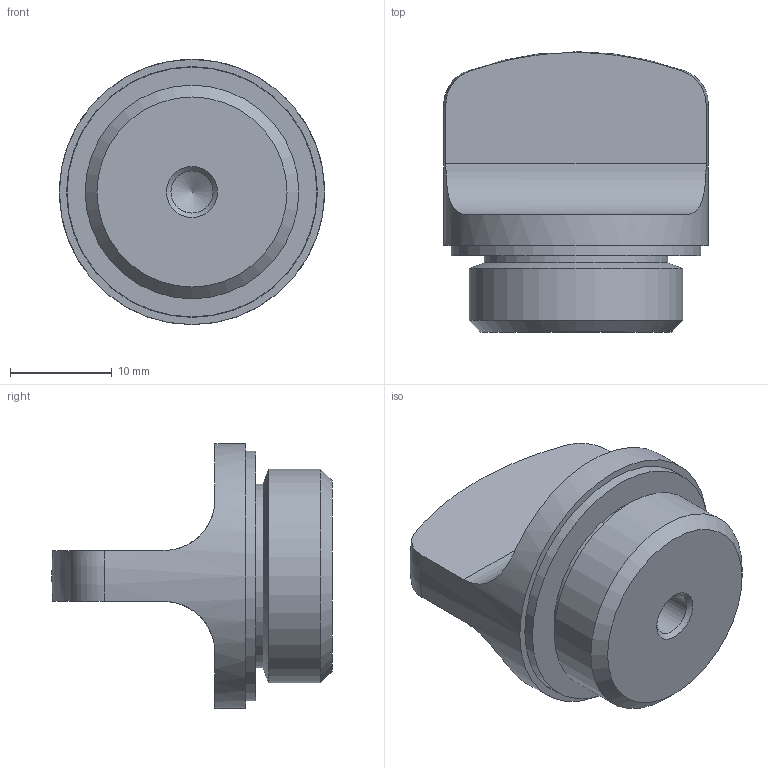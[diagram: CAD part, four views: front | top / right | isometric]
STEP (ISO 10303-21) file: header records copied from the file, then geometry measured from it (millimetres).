
FILE_DESCRIPTION( ( 'STEP AP203' ), '1' );
FILE_NAME( 'C:/Temp/Ganter_Step_05_03_2020/data/3_5/gn441/Threaded plug GN 441-26-G1_2-2-SW.stp', '2020-03-12T13:34:54', ( 'License CC BY-ND 4.0' ), ( 'CADENAS' ), ' ', 'PARTsolutions', ' ' );
FILE_SCHEMA( ( 'CONFIG_CONTROL_DESIGN' ) );
Length unit declared in the file: millimetre
Products named in the file (1): _Threaded plug GN 441-26-G1/2-2-SW
Bounding box: 26 x 27.5 x 26 mm (x, y, z)
Volume: 6455.3 mm3; surface area: 3445.8 mm2
Topology: 1 solids, 1 shells, 33 faces, 74 edges, 48 vertices
Faces by surface type: cylinder 14, plane 11, cone 5, torus 2, sphere 1
Full cylindrical faces by diameter (mm): 2 x1, 4.134 x1, 18 x1, 18.5 x1, 20.955 x1, 21.9 x1, 22 x1, 24.5 x1, 24.6 x1, 26 x1
Entity records: 1034 total; most frequent: CARTESIAN_POINT 349, DIRECTION 136, ORIENTED_EDGE 102, AXIS2_PLACEMENT_3D 64, EDGE_LOOP 56, EDGE_CURVE 51, FACE_OUTER_BOUND 43, VERTEX_POINT 43
